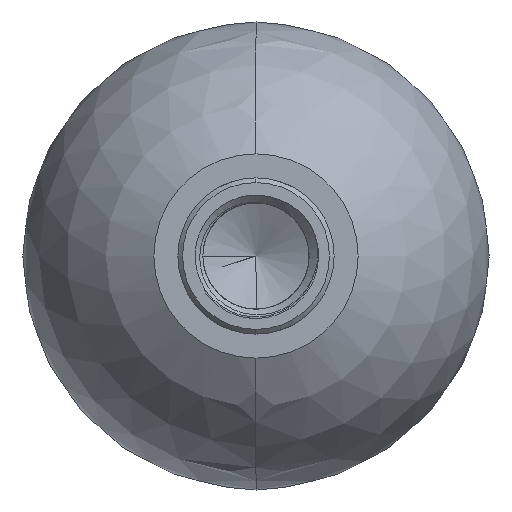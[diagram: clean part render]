
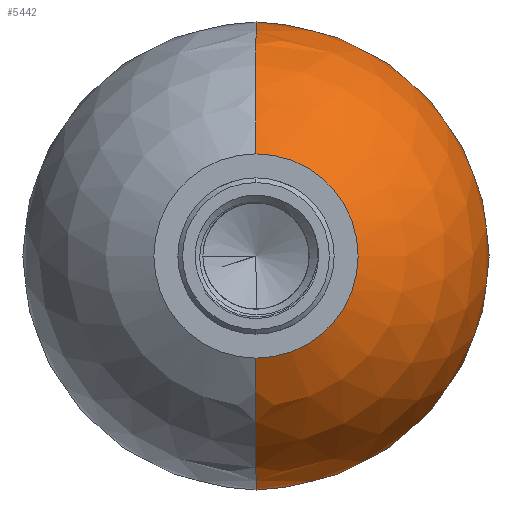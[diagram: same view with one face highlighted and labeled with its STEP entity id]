
A CAD part, left-side view. The second image highlights one B-rep face of the part: STEP entity #5442.
In plain terms, the highlighted spherical face has radius 15 mm.
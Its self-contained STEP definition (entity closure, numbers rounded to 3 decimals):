
#5340=CARTESIAN_POINT('',(-13.5,0.,0.));
#5341=DIRECTION('',(-1.,0.,0.));
#5342=DIRECTION('',(0.,0.,-1.));
#5343=AXIS2_PLACEMENT_3D('',#5340,#5341,#5342);
#5360=CARTESIAN_POINT('',(0.,0.,0.));
#5361=DIRECTION('',(0.,1.,0.));
#5362=DIRECTION('',(1.,0.,0.));
#5363=AXIS2_PLACEMENT_3D('',#5360,#5361,#5362);
#5365=CARTESIAN_POINT('',(0.,0.,0.));
#5366=DIRECTION('',(0.,-1.,0.));
#5367=DIRECTION('',(1.,0.,0.));
#5368=AXIS2_PLACEMENT_3D('',#5365,#5366,#5367);
#5396=CARTESIAN_POINT('',(15.,0.,0.));
#5397=CARTESIAN_POINT('',(-13.5,0.,-6.538));
#5398=VERTEX_POINT('',#5396);
#5399=VERTEX_POINT('',#5397);
#5400=CARTESIAN_POINT('',(-13.5,0.,6.538));
#5401=VERTEX_POINT('',#5400);
#5430=CARTESIAN_POINT('',(0.,0.,0.));
#5431=DIRECTION('',(1.,0.,0.));
#5432=DIRECTION('',(0.,0.,1.));
#5433=AXIS2_PLACEMENT_3D('',#5430,#5431,#5432);
#5434=SPHERICAL_SURFACE('',#5433,15.);
#5436=ORIENTED_EDGE('',*,*,#5435,.T.);
#5437=ORIENTED_EDGE('',*,*,#5417,.T.);
#5439=ORIENTED_EDGE('',*,*,#5438,.F.);
#5440=EDGE_LOOP('',(#5436,#5437,#5439));
#5441=FACE_OUTER_BOUND('',#5440,.F.);
#5442=ADVANCED_FACE('',(#5441),#5434,.T.);
#5344=CIRCLE('',#5343,6.538);
#5364=CIRCLE('',#5363,15.);
#5369=CIRCLE('',#5368,15.);
#5417=EDGE_CURVE('',#5399,#5401,#5344,.T.);
#5435=EDGE_CURVE('',#5398,#5399,#5364,.T.);
#5438=EDGE_CURVE('',#5398,#5401,#5369,.T.);
